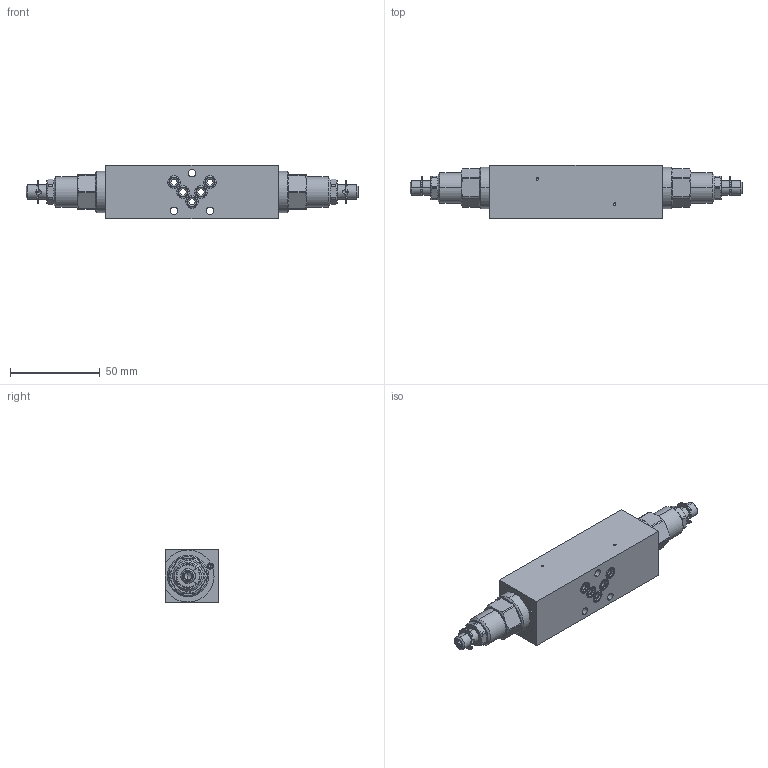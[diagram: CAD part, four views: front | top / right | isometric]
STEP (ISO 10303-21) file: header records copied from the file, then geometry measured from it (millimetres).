
FILE_DESCRIPTION (( 'STEP AP214' ), '1' );
FILE_NAME ('B.SSA03-ABSTEP.STEP', '2017-03-23T06:47:00', ( '' ), ( '' ), 'SwSTEP 2.0', 'SolidWorks 2016', '' );
FILE_SCHEMA (( 'AUTOMOTIVE_DESIGN' ));
Length unit declared in the file: millimetre
Products named in the file (1): B.SSA03-ABSTEP
Bounding box: 184.6 x 29.5 x 30 mm (x, y, z)
Volume: 100914.6 mm3; surface area: 21438.2 mm2
Topology: 8 solids, 12 shells, 499 faces, 1276 edges, 802 vertices
Faces by surface type: plane 199, cylinder 164, cone 96, bspline 40
Entity records: 21622 total; most frequent: CARTESIAN_POINT 4156, DIRECTION 2530, ORIENTED_EDGE 2504, EDGE_CURVE 1252, AXIS2_PLACEMENT_3D 1026, VERTEX_POINT 802, CIRCLE 566, EDGE_LOOP 550
